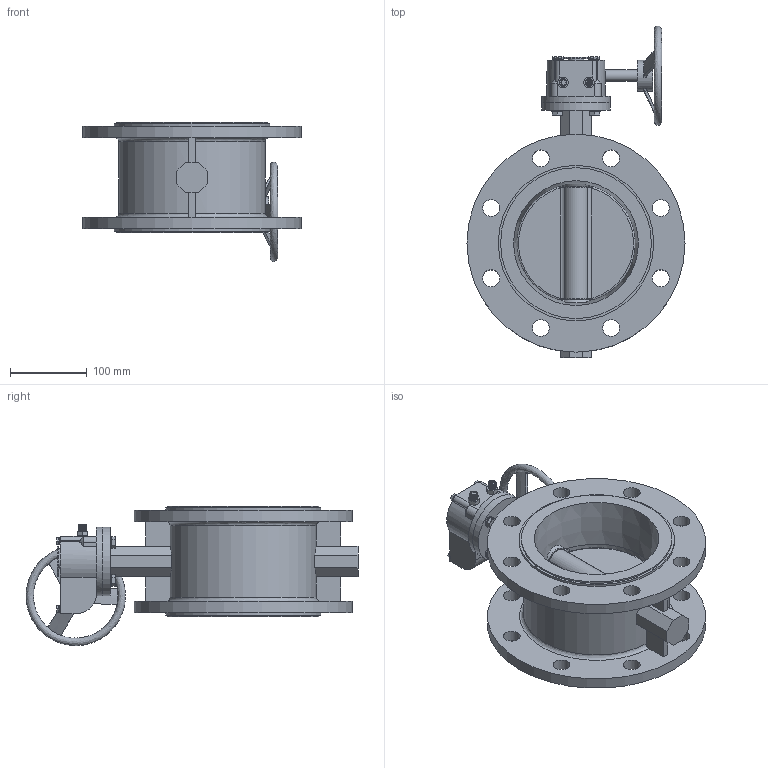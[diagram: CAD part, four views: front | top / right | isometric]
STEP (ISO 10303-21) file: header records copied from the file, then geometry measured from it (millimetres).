
FILE_DESCRIPTION (( 'STEP AP214' ), '1' );
FILE_NAME ('恦謫 邧楊擘評概 Fig.3226-204B-150-16.STEP', '2026-03-20T01:16:20', ( '' ), ( '' ), 'SwSTEP 2.0', 'SolidWorks 2024', '' );
FILE_SCHEMA (( 'AUTOMOTIVE_DESIGN' ));
Length unit declared in the file: millimetre
Products named in the file (1): 涡轮 双法兰蝶阀 Fig.3226-204B-150-16
Bounding box: 285 x 433.98 x 181.93 mm (x, y, z)
Surface area: 460441.7 mm2 (no closed solid volume)
Topology: 0 solids, 1 shells, 593 faces, 1522 edges, 985 vertices
Faces by surface type: plane 298, bspline 161, cylinder 92, cone 42
Full cylindrical faces by diameter (mm): 6 x4, 8 x4, 8.68 x4, 10 x10, 13.68 x4, 15 x1, 20 x1, 22 x16, 40 x2, 50 x1, 90 x1, 90.02 x1, 197.2 x2, 203.2 x2, 285 x2
Entity records: 47837 total; most frequent: CARTESIAN_POINT 28501, ORIENTED_EDGE 2862, DIRECTION 2081, EDGE_CURVE 1442, VERTEX_POINT 963, EDGE_LOOP 763, LINE 699, VECTOR 699
